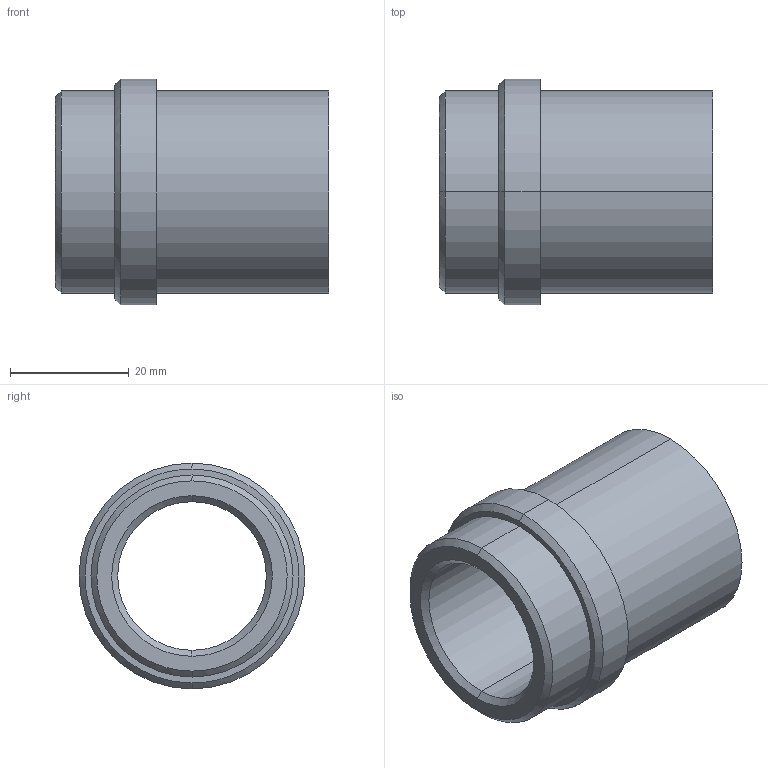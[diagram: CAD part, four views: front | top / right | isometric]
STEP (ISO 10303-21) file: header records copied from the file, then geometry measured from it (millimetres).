
FILE_DESCRIPTION(('CATIA V5 STEP Exchange'),'2;1');
FILE_NAME('C:\Users\Utente\Desktop\IO LAVORO\3D X SITO CF\X SITO\PLASTICA\358\358-25x46.stp','2021-04-09T13:23:21+00:00',('none'),('none'),'CATIA Version 5 Release 20 GA (IN-10)','CATIA V5 STEP AP203','none');
FILE_SCHEMA(('CONFIG_CONTROL_DESIGN'));
Length unit declared in the file: millimetre
Products named in the file (1): 358-25X46
Bounding box: 46 x 38 x 38 mm (x, y, z)
Volume: 20546.3 mm3; surface area: 9655.3 mm2
Topology: 1 solids, 1 shells, 20 faces, 64 edges, 48 vertices
Faces by surface type: cylinder 8, cone 6, plane 4, torus 2
Entity records: 906 total; most frequent: CARTESIAN_POINT 301, ORIENTED_EDGE 128, DIRECTION 92, EDGE_CURVE 64, AXIS2_PLACEMENT_3D 59, VERTEX_POINT 48, CIRCLE 38, EDGE_LOOP 24
